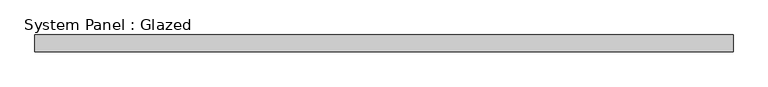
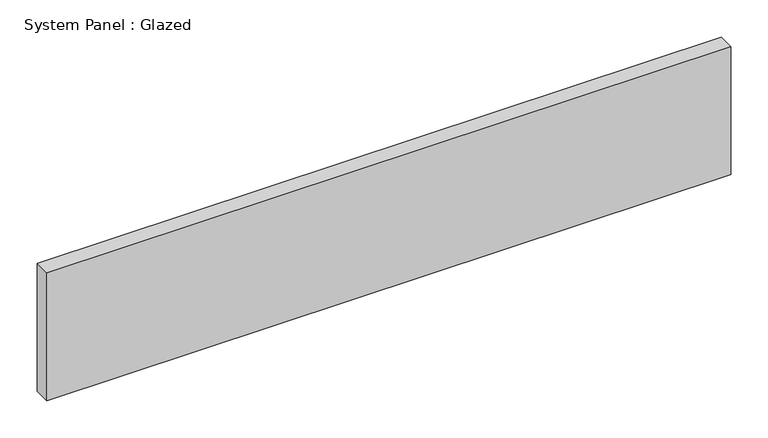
"""IFC4 building model written with IfcOpenShell, lengths in millimetres: plate geometry, System Panel : Glazed."""

from ifc_helpers import new_model, si_unit, origin, origin_with_axes, place, context, project, spatial, polyline, outline, extrude, source, transform, mapped, element, save


def system_panel_glazed_5efc551b(model_context):
    return source(origin(), model_context, "Body", "SweptSolid", [
        extrude(outline(polyline([(529.544643, 19.05), (-529.544643, 19.05), (-529.544643, 44.45), (529.544643, 44.45), (529.544643, 19.05)])), origin_with_axes(), (0.0, 0.0, 1.0), 209.55),
    ])


if __name__ == "__main__":
    model = new_model("IFC4")
    model_context = context("Model", 3, world=origin())
    ifc_project = project(units=[si_unit("LENGTHUNIT", "METRE", prefix="MILLI")], contexts=[model_context])
    site = spatial("IfcSite", under=ifc_project)
    building = spatial("IfcBuilding", under=site)
    placement = place(None, origin())
    system_panel_glazed_shape = system_panel_glazed_5efc551b(model_context)
    element("IfcPlate", 1, ObjectType="System Panel : Glazed", at=placement, inside=building, context=model_context, shape_type="MappedRepresentation", body=[
        mapped(system_panel_glazed_shape, transform((0.0, 0.0, 0.0), x_axis=(1.0, 0.0, 0.0), y_axis=(0.0, 1.0, 0.0), z_axis=(0.0, 0.0, 1.0))),
    ])
    save(model, "model.ifc")
